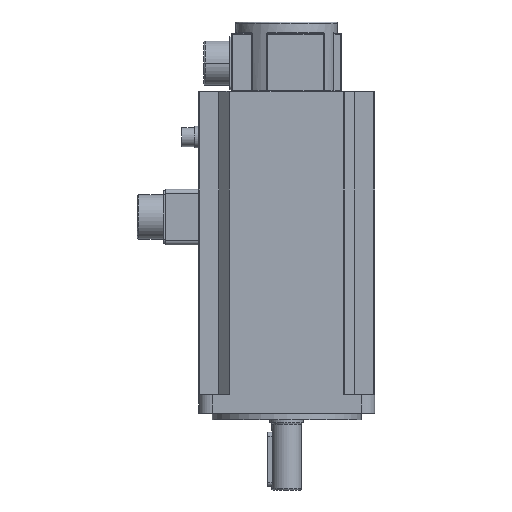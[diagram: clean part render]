
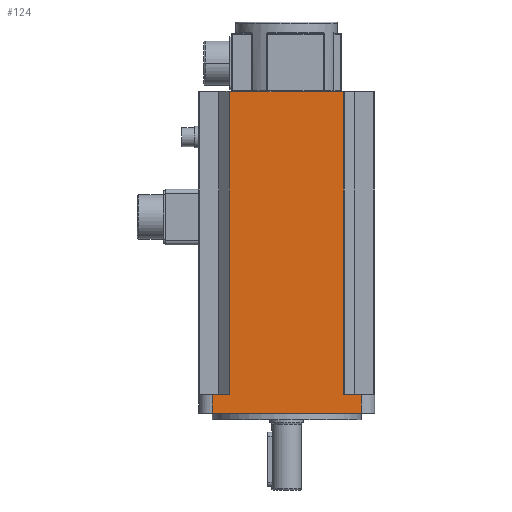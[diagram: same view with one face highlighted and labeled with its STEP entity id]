
A CAD part, front view. The second image highlights one B-rep face of the part: STEP entity #124.
In plain terms, the highlighted planar face has unit normal (0, -1, 0).
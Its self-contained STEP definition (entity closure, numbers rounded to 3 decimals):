
#124 = ADVANCED_FACE ( 'NONE', ( #7095 ), #7585, .F. ) ;
#246 = ORIENTED_EDGE ( 'NONE', *, *, #6377, .T. ) ;
#247 = ORIENTED_EDGE ( 'NONE', *, *, #6378, .F. ) ;
#250 = ORIENTED_EDGE ( 'NONE', *, *, #6379, .T. ) ;
#255 = ORIENTED_EDGE ( 'NONE', *, *, #6380, .T. ) ;
#256 = ORIENTED_EDGE ( 'NONE', *, *, #6376, .F. ) ;
#257 = ORIENTED_EDGE ( 'NONE', *, *, #6300, .F. ) ;
#259 = ORIENTED_EDGE ( 'NONE', *, *, #6381, .T. ) ;
#260 = ORIENTED_EDGE ( 'NONE', *, *, #6382, .T. ) ;
#679 = DIRECTION ( 'NONE',  ( -1., 0., 0. ) ) ;
#682 = CARTESIAN_POINT ( 'NONE',  ( -42.5, -65., 242.3 ) ) ;
#683 = DIRECTION ( 'NONE',  ( 0., 0., 1. ) ) ;
#684 = CARTESIAN_POINT ( 'NONE',  ( 42., -65., 18.8 ) ) ;
#685 = DIRECTION ( 'NONE',  ( 1., 0., 0. ) ) ;
#687 = CARTESIAN_POINT ( 'NONE',  ( -55., -65., 4.8 ) ) ;
#689 = DIRECTION ( 'NONE',  ( 0., 0., -1. ) ) ;
#690 = CARTESIAN_POINT ( 'NONE',  ( -55., -65., 18.8 ) ) ;
#692 = DIRECTION ( 'NONE',  ( 1., 0., 0. ) ) ;
#694 = DIRECTION ( 'NONE',  ( 0., 0., -1. ) ) ;
#696 = CARTESIAN_POINT ( 'NONE',  ( -42., -65., 18.8 ) ) ;
#701 = CARTESIAN_POINT ( 'NONE',  ( 55., -65., 18.8 ) ) ;
#704 = CARTESIAN_POINT ( 'NONE',  ( -55., -65., 18.8 ) ) ;
#717 = DIRECTION ( 'NONE',  ( 0., 0., -1. ) ) ;
#970 = CARTESIAN_POINT ( 'NONE',  ( -55., -65., 18.8 ) ) ;
#976 = DIRECTION ( 'NONE',  ( 1., 0., 0. ) ) ;
#1854 = CARTESIAN_POINT ( 'NONE',  ( 55., -65., 4.8 ) ) ;
#1886 = CARTESIAN_POINT ( 'NONE',  ( -42., -65., 18.8 ) ) ;
#1887 = CARTESIAN_POINT ( 'NONE',  ( -55., -65., 4.8 ) ) ;
#1888 = CARTESIAN_POINT ( 'NONE',  ( 42., -65., 242.3 ) ) ;
#1925 = CARTESIAN_POINT ( 'NONE',  ( 55., -65., 18.8 ) ) ;
#1928 = CARTESIAN_POINT ( 'NONE',  ( 42., -65., 18.8 ) ) ;
#1966 = CARTESIAN_POINT ( 'NONE',  ( -42., -65., 242.3 ) ) ;
#1986 = CARTESIAN_POINT ( 'NONE',  ( -55., -65., 18.8 ) ) ;
#3972 = VECTOR ( 'NONE', #679, 1000. ) ;
#3974 = VECTOR ( 'NONE', #683, 1000. ) ;
#3975 = LINE ( 'NONE', #682, #3972 ) ;
#3976 = VECTOR ( 'NONE', #685, 1000. ) ;
#3977 = LINE ( 'NONE', #684, #3974 ) ;
#3978 = VECTOR ( 'NONE', #689, 1000. ) ;
#3979 = LINE ( 'NONE', #687, #3976 ) ;
#3980 = VECTOR ( 'NONE', #692, 1000. ) ;
#3981 = LINE ( 'NONE', #690, #3978 ) ;
#3982 = VECTOR ( 'NONE', #694, 1000. ) ;
#3984 = VECTOR ( 'NONE', #717, 1000. ) ;
#3985 = LINE ( 'NONE', #696, #3982 ) ;
#3986 = LINE ( 'NONE', #704, #3980 ) ;
#3996 = LINE ( 'NONE', #701, #3984 ) ;
#4104 = VECTOR ( 'NONE', #976, 1000. ) ;
#4108 = LINE ( 'NONE', #970, #4104 ) ;
#5122 = EDGE_LOOP ( 'NONE', ( #246, #247, #250, #255, #256, #257, #259, #260 ) ) ;
#5533 = VERTEX_POINT ( 'NONE', #1986 ) ;
#5547 = VERTEX_POINT ( 'NONE', #1966 ) ;
#5578 = VERTEX_POINT ( 'NONE', #1928 ) ;
#5581 = VERTEX_POINT ( 'NONE', #1925 ) ;
#5611 = VERTEX_POINT ( 'NONE', #1888 ) ;
#5612 = VERTEX_POINT ( 'NONE', #1887 ) ;
#5613 = VERTEX_POINT ( 'NONE', #1886 ) ;
#5640 = VERTEX_POINT ( 'NONE', #1854 ) ;
#5942 = AXIS2_PLACEMENT_3D ( 'NONE', #7588, #7579, #7578 ) ;
#6300 = EDGE_CURVE ( 'NONE', #5578, #5581, #4108, .T. ) ;
#6376 = EDGE_CURVE ( 'NONE', #5581, #5640, #3996, .T. ) ;
#6377 = EDGE_CURVE ( 'NONE', #5547, #5613, #3985, .T. ) ;
#6378 = EDGE_CURVE ( 'NONE', #5533, #5613, #3986, .T. ) ;
#6379 = EDGE_CURVE ( 'NONE', #5533, #5612, #3981, .T. ) ;
#6380 = EDGE_CURVE ( 'NONE', #5612, #5640, #3979, .T. ) ;
#6381 = EDGE_CURVE ( 'NONE', #5578, #5611, #3977, .T. ) ;
#6382 = EDGE_CURVE ( 'NONE', #5611, #5547, #3975, .T. ) ;
#7095 = FACE_OUTER_BOUND ( 'NONE', #5122, .T. ) ;
#7578 = DIRECTION ( 'NONE',  ( 0., 0., 1. ) ) ;
#7579 = DIRECTION ( 'NONE',  ( 0., 1., 0. ) ) ;
#7585 = PLANE ( 'NONE',  #5942 ) ;
#7588 = CARTESIAN_POINT ( 'NONE',  ( -55., -65., 18.8 ) ) ;
